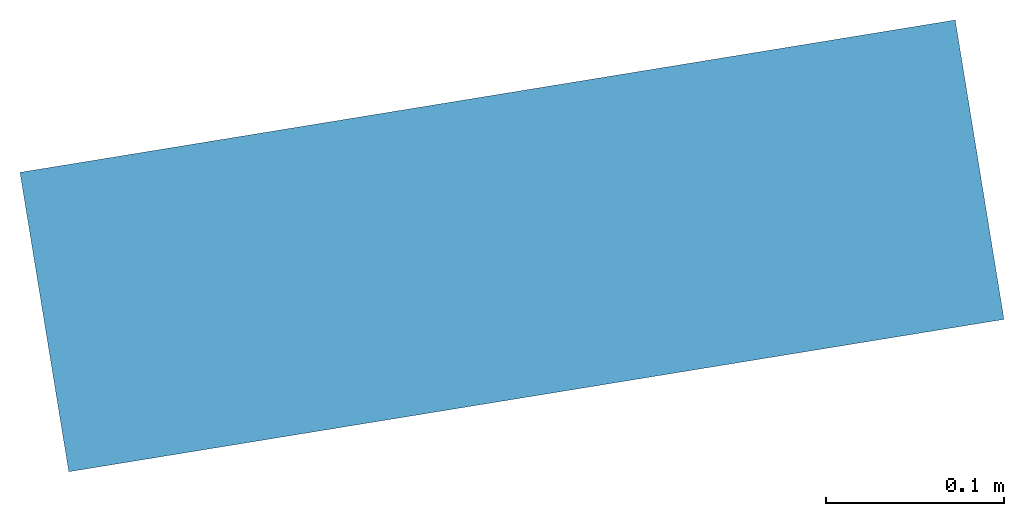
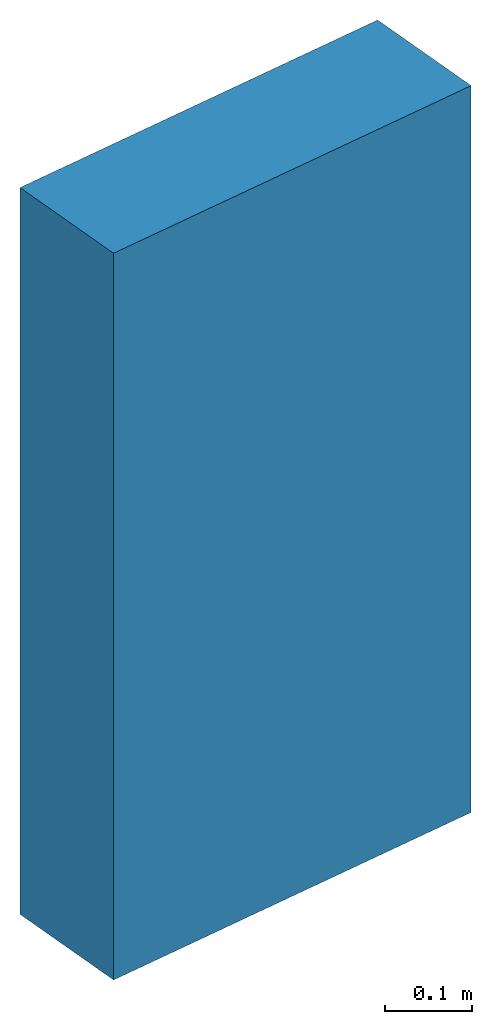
# One storey: 1 wall.
"""IFC2X3 building model written with IfcOpenShell, lengths in millimetres."""

from ifc_helpers import new_model, entity, si_unit, converted_unit, derived_unit, direction, frame, origin, origin_with_axes, place, context, subcontext, project, spatial, faceted_brep, material, layer, layer_set, type_object, element, save


model = new_model("IFC2X3")

# Units and contexts
plan_context = context("Plan", 3, precision=1e-05, world=origin_with_axes())
model_context = context("Model", 3, precision=0.01, world=origin(), true_north=direction((6.12323399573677e-17, 1.0)))
body_context = subcontext(model_context, "Body", "Model", "MODEL_VIEW")
ifc_project = project(units=[converted_unit("PLANEANGLEUNIT", "DEGREE", entity("IfcPositiveLengthMeasure", 0.0174532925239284), si_unit("PLANEANGLEUNIT", "RADIAN"), dimensions=[0, 0, 0, 0, 0, 0, 0]), si_unit("AREAUNIT", "SQUARE_METRE"), si_unit("LENGTHUNIT", "METRE", prefix="MILLI"), si_unit("MASSUNIT", "GRAM", prefix="KILO"), si_unit("POWERUNIT", "WATT"), si_unit("PRESSUREUNIT", "PASCAL", prefix="KILO"), si_unit("FORCEUNIT", "NEWTON", prefix="KILO"), si_unit("ELECTRICVOLTAGEUNIT", "VOLT"), si_unit("ELECTRICCURRENTUNIT", "AMPERE"), si_unit("THERMODYNAMICTEMPERATUREUNIT", "DEGREE_CELSIUS"), si_unit("TIMEUNIT", "SECOND"), si_unit("VOLUMEUNIT", "CUBIC_METRE"), derived_unit("LINEARVELOCITYUNIT", [(si_unit("LENGTHUNIT", "METRE"), 1), (si_unit("TIMEUNIT", "SECOND"), -1)]), derived_unit("VOLUMETRICFLOWRATEUNIT", [(si_unit("VOLUMEUNIT", "CUBIC_METRE"), 1), (si_unit("TIMEUNIT", "SECOND"), -1)]), derived_unit("THERMALTRANSMITTANCEUNIT", [(si_unit("POWERUNIT", "WATT"), 1), (si_unit("THERMODYNAMICTEMPERATUREUNIT", "KELVIN"), -1), (si_unit("AREAUNIT", "SQUARE_METRE"), -1)]), derived_unit("SOUNDPRESSUREUNIT", [(si_unit("PRESSUREUNIT", "PASCAL"), 1)])], contexts=[model_context, plan_context])

# Site, building, storey
site_placement = place(None, frame((-305029.896016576, -232111.759730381, 0.0), z_axis=(0.0, 0.0, 1.0), x_axis=(-0.160806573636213, 0.986985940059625, 0.0)))
site = spatial("IfcSite", under=ifc_project, at=site_placement, Name="Default", CompositionType="ELEMENT")
building_placement = place(site_placement, frame((0.0, 0.0, 0.0), z_axis=(0.0, 0.0, 1.0), x_axis=(1.0, -2.77555756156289e-17, 0.0)))
building = spatial("IfcBuilding", under=site, at=building_placement, Name="br001-a-200-1-0001", CompositionType="ELEMENT")
storey_placement = place(building_placement, frame((0.0, 0.0, 55500.0), z_axis=(0.0, 0.0, 1.0), x_axis=(1.0, -2.77555756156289e-17, 0.0)))
storey = spatial("IfcBuildingStorey", under=building, at=storey_placement, Name="H02-Nivå F-3,5 m", CompositionType="ELEMENT", Elevation=55500.0)

# Wall
ifc_material = material(Name="_NSW Standard")
ifc_layer = layer(ifc_material, 170.0)
ifc_layer_set = layer_set([ifc_layer], Name="Basic Wall:A242 - Standard 170")
wall_type = type_object("IfcWallType", Name="Basic Wall:A242 - Standard 170", PredefinedType="STANDARD", material=ifc_layer_set)
wall_placement = place(storey_placement, frame((1156763.59858442, -705118.378367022, -1639.99999992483), z_axis=(0.0, 0.0, 1.0), x_axis=(2.77555756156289e-17, 1.0, 0.0)))
element("IfcWall", 1, at=wall_placement, inside=storey, type_object=wall_type, Name="Basic Wall:A242 - Standard 170", ObjectType="Basic Wall:A242 - Standard 170", context=body_context, shape_type="Brep", body=[
    faceted_brep([(531.000000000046, 85.0000000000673, 0.0), (531.000000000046, 85.0000000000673, 1020.00000001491), (0.0, 85.0000000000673, 1020.00000001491), (0.0, 85.0000000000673, 0.0), (0.0, -85.0000000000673, 1020.00000001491), (0.0, -85.0000000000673, 0.0), (531.000000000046, -85.0000000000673, 1020.00000001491), (531.000000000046, -85.0000000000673, 0.0)], [[[0, 1, 2, 3]], [[3, 2, 4, 5]], [[6, 7, 5, 4]], [[7, 0, 3, 5]], [[1, 6, 4, 2]], [[7, 6, 1, 0]]], orient=[[False], [False], [False], [False], [False], [False]]),
])

save(model, "model.ifc")
